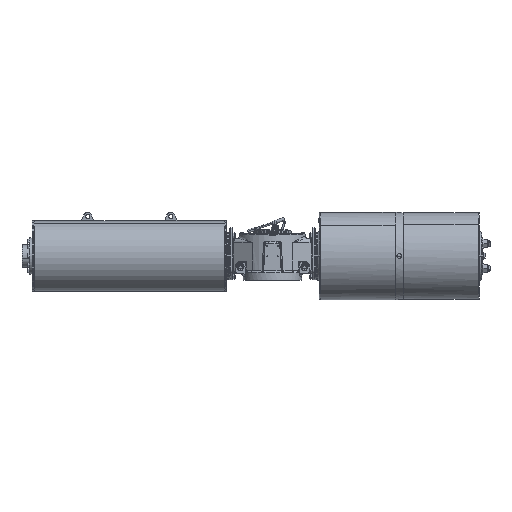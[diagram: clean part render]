
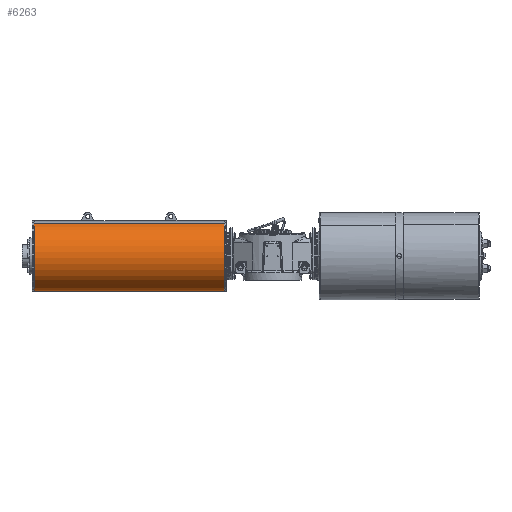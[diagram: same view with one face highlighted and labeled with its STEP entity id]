
A CAD part, front view. The second image highlights one B-rep face of the part: STEP entity #6263.
In plain terms, the highlighted cylindrical face has radius 340 mm (diameter 680 mm), a partial arc.
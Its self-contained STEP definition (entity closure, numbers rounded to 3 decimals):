
#992 = CARTESIAN_POINT ( 'NONE',  ( -462.615, 66.339, 479.326 ) ) ;
#6263 = ADVANCED_FACE ( 'NONE', ( #92808 ), #137680, .T. ) ;
#11414 = VECTOR ( 'NONE', #58339, 1000. ) ;
#14668 = CARTESIAN_POINT ( 'NONE',  ( -2293.385, 339.661, -143.326 ) ) ;
#15273 = AXIS2_PLACEMENT_3D ( 'NONE', #132057, #43741, #88616 ) ;
#19052 = ORIENTED_EDGE ( 'NONE', *, *, #137173, .F. ) ;
#23602 = VERTEX_POINT ( 'NONE', #14668 ) ;
#24490 = CARTESIAN_POINT ( 'NONE',  ( -2293.385, 66.339, 479.326 ) ) ;
#26286 = EDGE_CURVE ( 'NONE', #23602, #55297, #90017, .T. ) ;
#28576 = AXIS2_PLACEMENT_3D ( 'NONE', #68611, #81781, #71514 ) ;
#43741 = DIRECTION ( 'NONE',  ( -1., 0., 0. ) ) ;
#49600 = ORIENTED_EDGE ( 'NONE', *, *, #83162, .T. ) ;
#55297 = VERTEX_POINT ( 'NONE', #79489 ) ;
#56098 = CARTESIAN_POINT ( 'NONE',  ( -2298., 203., 168. ) ) ;
#58339 = DIRECTION ( 'NONE',  ( 1., 0., 0. ) ) ;
#64957 = VERTEX_POINT ( 'NONE', #24490 ) ;
#65955 = CARTESIAN_POINT ( 'NONE',  ( -2298., 66.339, 479.326 ) ) ;
#67031 = CIRCLE ( 'NONE', #15273, 340. ) ;
#68611 = CARTESIAN_POINT ( 'NONE',  ( -2293.385, 203., 168. ) ) ;
#69316 = DIRECTION ( 'NONE',  ( 1., 0., 0. ) ) ;
#71514 = DIRECTION ( 'NONE',  ( 0., -0.402, 0.916 ) ) ;
#71722 = ORIENTED_EDGE ( 'NONE', *, *, #129483, .T. ) ;
#75535 = LINE ( 'NONE', #65955, #138975 ) ;
#79489 = CARTESIAN_POINT ( 'NONE',  ( -462.615, 339.661, -143.326 ) ) ;
#81781 = DIRECTION ( 'NONE',  ( 1., 0., 0. ) ) ;
#83162 = EDGE_CURVE ( 'NONE', #55297, #135142, #67031, .T. ) ;
#88616 = DIRECTION ( 'NONE',  ( 0., -0.402, 0.916 ) ) ;
#89443 = DIRECTION ( 'NONE',  ( 1., 0., 0. ) ) ;
#90017 = LINE ( 'NONE', #124550, #11414 ) ;
#91484 = ORIENTED_EDGE ( 'NONE', *, *, #26286, .T. ) ;
#92808 = FACE_OUTER_BOUND ( 'NONE', #108549, .T. ) ;
#108549 = EDGE_LOOP ( 'NONE', ( #19052, #71722, #91484, #49600 ) ) ;
#112695 = DIRECTION ( 'NONE',  ( 0., 0.402, -0.916 ) ) ;
#115520 = CIRCLE ( 'NONE', #28576, 340. ) ;
#124550 = CARTESIAN_POINT ( 'NONE',  ( -2298., 339.661, -143.326 ) ) ;
#129483 = EDGE_CURVE ( 'NONE', #64957, #23602, #115520, .T. ) ;
#132057 = CARTESIAN_POINT ( 'NONE',  ( -462.615, 203., 168. ) ) ;
#134892 = AXIS2_PLACEMENT_3D ( 'NONE', #56098, #69316, #112695 ) ;
#135142 = VERTEX_POINT ( 'NONE', #992 ) ;
#137173 = EDGE_CURVE ( 'NONE', #64957, #135142, #75535, .T. ) ;
#137680 = CYLINDRICAL_SURFACE ( 'NONE', #134892, 340. ) ;
#138975 = VECTOR ( 'NONE', #89443, 1000. ) ;
